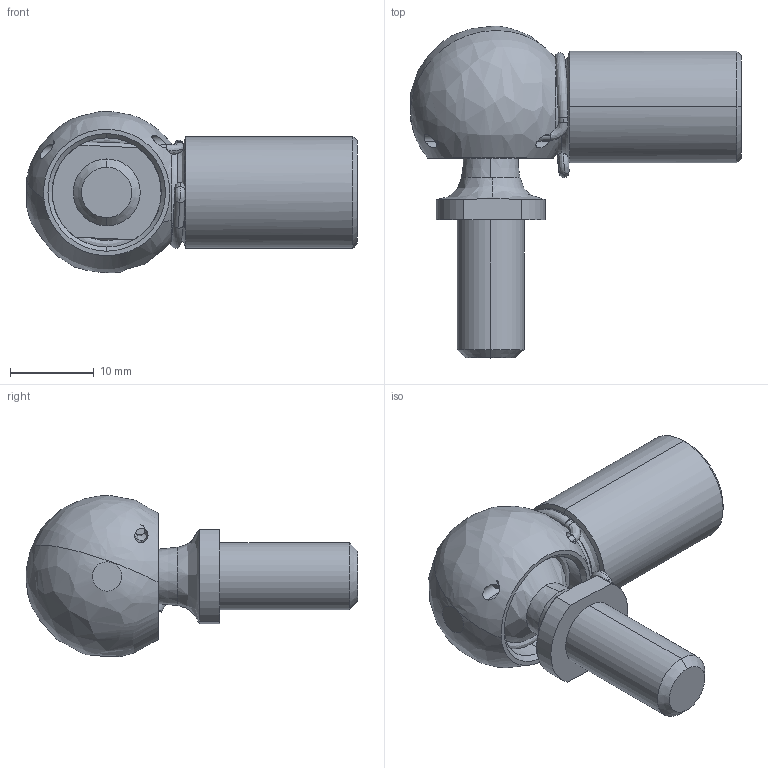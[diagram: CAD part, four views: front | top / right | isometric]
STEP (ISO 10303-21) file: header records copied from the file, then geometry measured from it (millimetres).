
FILE_DESCRIPTION (( 'STEP AP214' ), '1' );
FILE_NAME ('13.CS13M8.STEP', '2017-11-09T11:24:43', ( '' ), ( '' ), 'SwSTEP 2.0', 'SolidWorks 2016', '' );
FILE_SCHEMA (( 'AUTOMOTIVE_DESIGN' ));
Length unit declared in the file: millimetre
Products named in the file (1): 13.CS13M8
Bounding box: 39.45 x 39.65 x 19.25 mm (x, y, z)
Volume: 6751.7 mm3; surface area: 4288.3 mm2
Topology: 1 solids, 1 shells, 85 faces, 249 edges, 157 vertices
Faces by surface type: bspline 30, cylinder 26, plane 15, cone 14
Entity records: 9403 total; most frequent: CARTESIAN_POINT 7443, ORIENTED_EDGE 466, DIRECTION 320, EDGE_CURVE 233, VERTEX_POINT 157, AXIS2_PLACEMENT_3D 137, EDGE_LOOP 98, B_SPLINE_CURVE_WITH_KNOTS 96
